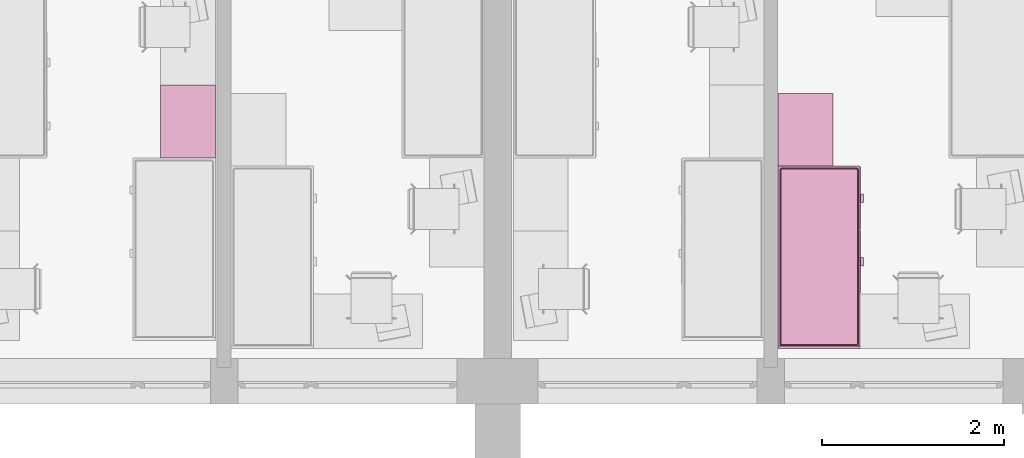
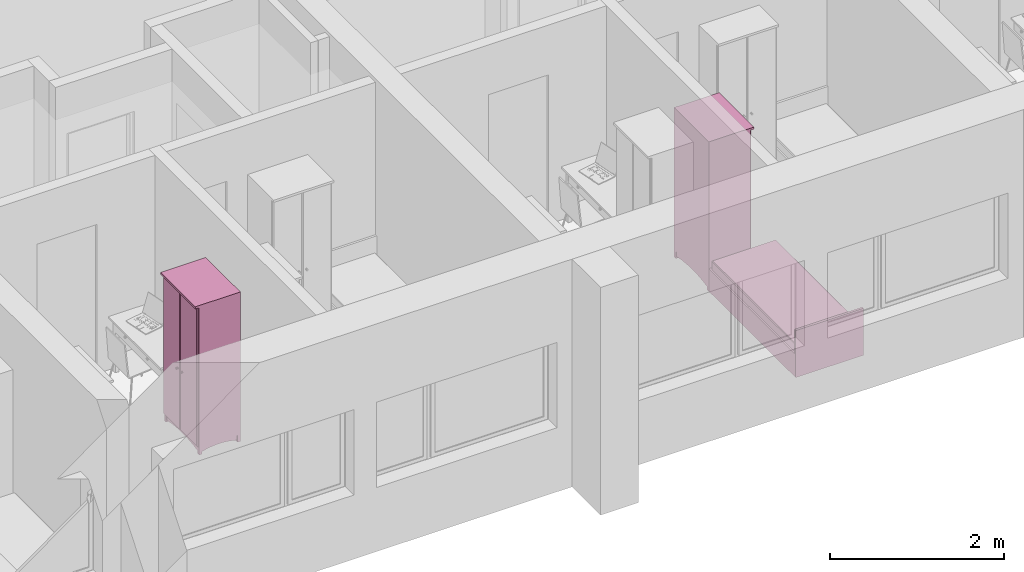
# One storey, part 62 of 165: 3 furnishings.
"""IFC2X3 building model written with IfcOpenShell, lengths in millimetres."""

from ifc_helpers import new_model, entity, si_unit, converted_unit, money_unit, direction, frame, origin_with_axes, place, context, subcontext, project, spatial, faceted_brep, source, transform, mapped, material, material_list, type_object, element, save


model = new_model("IFC2X3")

# Units and contexts
model_context = context("Model", 3, precision=1e-05, world=origin_with_axes(), true_north=direction((0.0, 1.0)))
body_context = subcontext(model_context, "Body", "Model", "MODEL_VIEW")
ifc_project = project(units=[si_unit("LENGTHUNIT", "METRE", prefix="MILLI"), si_unit("AREAUNIT", "SQUARE_METRE"), si_unit("VOLUMEUNIT", "CUBIC_METRE"), converted_unit("PLANEANGLEUNIT", "DEGREE", entity("IfcPlaneAngleMeasure", 0.0174532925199), si_unit("PLANEANGLEUNIT", "RADIAN"), dimensions=[0, 0, 0, 0, 0, 0, 0]), si_unit("SOLIDANGLEUNIT", "STERADIAN"), money_unit("USD"), converted_unit("TIMEUNIT", "Year", entity("IfcTimeMeasure", 31556926.0), si_unit("TIMEUNIT", "SECOND"), dimensions=[0, 0, 0, 0, 0, 0, 0]), si_unit("MASSUNIT", "GRAM"), si_unit("THERMODYNAMICTEMPERATUREUNIT", "DEGREE_CELSIUS"), si_unit("LUMINOUSINTENSITYUNIT", "LUMEN")], contexts=[model_context])

# Site, building, storey
site_placement = place(None, origin_with_axes())
site = spatial("IfcSite", under=ifc_project, at=site_placement, Name="Site", CompositionType="ELEMENT")
building_placement = place(site_placement, origin_with_axes())
building = spatial("IfcBuilding", under=site, at=building_placement, Name="Building", CompositionType="ELEMENT")
storey_placement = place(building_placement, frame((0.0, 0.0, 6300.0), z_axis=(0.0, 0.0, 1.0), x_axis=(1.0, 0.0, 0.0)))
storey = spatial("IfcBuildingStorey", under=building, at=storey_placement, Name="4KORRUS", CompositionType="ELEMENT", Elevation=6300.0)

# Furnishings
ifc_material = material(Name="Background")
ifc_material_list = material_list([ifc_material])
furnishing_element_type_1 = type_object("IfcFurnishingElementType", Name="Cupboard 19")
shared_shape_1 = source(origin_with_axes(), body_context, "Body", "Brep", [
    faceted_brep([(780.0, 600.0, 120.0), (780.0, 600.0, 2050.0), (780.0, 580.0, 2050.0), (780.0, 580.0, 120.0), (20.0, 600.0, 120.0), (20.0, 600.0, 2050.0), (20.0, 580.0, 2050.0), (20.0, 580.0, 120.0)], [[[0, 1, 2, 3]], [[4, 5, 1, 0]], [[1, 5, 6, 2]], [[3, 2, 6, 7]], [[0, 3, 7, 4]], [[7, 6, 5, 4]]]),
    faceted_brep([(0.0, 50.0, 100.0), (0.0, 600.0, 100.0), (20.0, 600.0, 100.0), (20.0, 50.0, 100.0), (0.0, 50.0, 2070.0), (0.0, 600.0, 2070.0), (20.0, 600.0, 2070.0), (20.0, 50.0, 2070.0)], [[[0, 1, 2, 3]], [[0, 4, 5, 1]], [[1, 5, 6, 2]], [[2, 6, 7, 3]], [[3, 7, 4, 0]], [[7, 6, 5, 4]]]),
    faceted_brep([(780.0, 50.0, 100.0), (780.0, 600.0, 100.0), (800.0, 600.0, 100.0), (800.0, 50.0, 100.0), (780.0, 50.0, 2070.0), (780.0, 600.0, 2070.0), (800.0, 600.0, 2070.0), (800.0, 50.0, 2070.0)], [[[0, 1, 2, 3]], [[0, 4, 5, 1]], [[1, 5, 6, 2]], [[2, 6, 7, 3]], [[3, 7, 4, 0]], [[7, 6, 5, 4]]]),
    faceted_brep([(20.0, 50.0, 100.0), (20.0, 600.0, 100.0), (780.0, 600.0, 100.0), (780.0, 50.0, 100.0), (20.0, 50.0, 120.0), (20.0, 600.0, 120.0), (780.0, 600.0, 120.0), (780.0, 50.0, 120.0)], [[[0, 1, 2, 3]], [[0, 4, 5, 1]], [[1, 5, 6, 2]], [[2, 6, 7, 3]], [[3, 7, 4, 0]], [[7, 6, 5, 4]]]),
    faceted_brep([(20.0, 50.0, 2050.0), (20.0, 600.0, 2050.0), (780.0, 600.0, 2050.0), (780.0, 50.0, 2050.0), (20.0, 50.0, 2070.0), (20.0, 600.0, 2070.0), (780.0, 600.0, 2070.0), (780.0, 50.0, 2070.0)], [[[0, 1, 2, 3]], [[0, 4, 5, 1]], [[1, 5, 6, 2]], [[2, 6, 7, 3]], [[3, 7, 4, 0]], [[7, 6, 5, 4]]]),
    faceted_brep([(0.0, 600.0, 2070.0), (0.0, 0.0, 2070.0), (0.0, 0.0, 2100.0), (0.0, 600.0, 2100.0), (800.0, 600.0, 2070.0), (800.0, 0.0, 2070.0), (800.0, 0.0, 2100.0), (800.0, 600.0, 2100.0)], [[[0, 1, 2, 3]], [[0, 4, 5, 1]], [[1, 5, 6, 2]], [[3, 2, 6, 7]], [[4, 0, 3, 7]], [[5, 4, 7, 6]]]),
    faceted_brep([(760.0, 590.0, 25.0), (760.0, 570.0, 25.0), (640.962, 570.0, 45.8), (640.962, 590.0, 45.8), (760.0, 590.0, 100.0), (760.0, 570.0, 100.0), (40.0, 570.0, 100.0), (40.0, 570.0, 25.0), (159.038, 570.0, 45.8), (279.23, 570.0, 58.32), (400.0, 570.0, 62.5), (520.77, 570.0, 58.32), (520.77, 590.0, 58.32), (400.0, 590.0, 62.5), (279.23, 590.0, 58.32), (159.038, 590.0, 45.8), (40.0, 590.0, 25.0), (40.0, 590.0, 100.0)], [[[0, 1, 2, 3]], [[4, 5, 1, 0]], [[1, 5, 6, 7, 8, 9, 10, 11, 2]], [[3, 2, 11, 12]], [[0, 3, 12, 13, 14, 15, 16, 17, 4]], [[17, 6, 5, 4]], [[16, 7, 6, 17]], [[15, 8, 7, 16]], [[14, 9, 8, 15]], [[13, 10, 9, 14]], [[12, 11, 10, 13]]]),
    faceted_brep([(760.0, 80.0, 25.0), (760.0, 60.0, 25.0), (640.962, 60.0, 45.8), (640.962, 80.0, 45.8), (760.0, 80.0, 100.0), (760.0, 60.0, 100.0), (40.0, 60.0, 100.0), (40.0, 60.0, 25.0), (159.038, 60.0, 45.8), (279.23, 60.0, 58.32), (400.0, 60.0, 62.5), (520.77, 60.0, 58.32), (520.77, 80.0, 58.32), (400.0, 80.0, 62.5), (279.23, 80.0, 58.32), (159.038, 80.0, 45.8), (40.0, 80.0, 25.0), (40.0, 80.0, 100.0)], [[[0, 1, 2, 3]], [[4, 5, 1, 0]], [[1, 5, 6, 7, 8, 9, 10, 11, 2]], [[3, 2, 11, 12]], [[0, 3, 12, 13, 14, 15, 16, 17, 4]], [[17, 6, 5, 4]], [[16, 7, 6, 17]], [[15, 8, 7, 16]], [[14, 9, 8, 15]], [[13, 10, 9, 14]], [[12, 11, 10, 13]]]),
    faceted_brep([(790.0, 90.0, 25.0), (770.0, 90.0, 25.0), (770.0, 141.266, 38.072), (790.0, 141.266, 38.072), (790.0, 90.0, 100.0), (770.0, 90.0, 100.0), (770.0, 560.0, 100.0), (770.0, 560.0, 25.0), (770.0, 508.734, 38.072), (770.0, 456.752, 47.92), (770.0, 404.257, 54.508), (770.0, 351.453, 57.808), (770.0, 298.547, 57.808), (770.0, 245.743, 54.508), (770.0, 193.248, 47.92), (790.0, 193.248, 47.92), (790.0, 245.743, 54.508), (790.0, 298.547, 57.808), (790.0, 351.453, 57.808), (790.0, 404.257, 54.508), (790.0, 456.752, 47.92), (790.0, 508.734, 38.072), (790.0, 560.0, 25.0), (790.0, 560.0, 100.0)], [[[0, 1, 2, 3]], [[4, 5, 1, 0]], [[1, 5, 6, 7, 8, 9, 10, 11, 12, 13, 14, 2]], [[3, 2, 14, 15]], [[0, 3, 15, 16, 17, 18, 19, 20, 21, 22, 23, 4]], [[23, 6, 5, 4]], [[22, 7, 6, 23]], [[21, 8, 7, 22]], [[20, 9, 8, 21]], [[19, 10, 9, 20]], [[18, 11, 10, 19]], [[17, 12, 11, 18]], [[16, 13, 12, 17]], [[15, 14, 13, 16]]]),
    faceted_brep([(30.0, 90.0, 25.0), (10.0, 90.0, 25.0), (10.0, 141.266, 38.072), (30.0, 141.266, 38.072), (30.0, 90.0, 100.0), (10.0, 90.0, 100.0), (10.0, 560.0, 100.0), (10.0, 560.0, 25.0), (10.0, 508.734, 38.072), (10.0, 456.752, 47.92), (10.0, 404.257, 54.508), (10.0, 351.453, 57.808), (10.0, 298.547, 57.808), (10.0, 245.743, 54.508), (10.0, 193.248, 47.92), (30.0, 193.248, 47.92), (30.0, 245.743, 54.508), (30.0, 298.547, 57.808), (30.0, 351.453, 57.808), (30.0, 404.257, 54.508), (30.0, 456.752, 47.92), (30.0, 508.734, 38.072), (30.0, 560.0, 25.0), (30.0, 560.0, 100.0)], [[[0, 1, 2, 3]], [[4, 5, 1, 0]], [[1, 5, 6, 7, 8, 9, 10, 11, 12, 13, 14, 2]], [[3, 2, 14, 15]], [[0, 3, 15, 16, 17, 18, 19, 20, 21, 22, 23, 4]], [[23, 6, 5, 4]], [[22, 7, 6, 23]], [[21, 8, 7, 22]], [[20, 9, 8, 21]], [[19, 10, 9, 20]], [[18, 11, 10, 19]], [[17, 12, 11, 18]], [[16, 13, 12, 17]], [[15, 14, 13, 16]]]),
    faceted_brep([(760.0, 560.0, 0.0), (760.0, 560.0, 100.0), (760.0, 600.0, 100.0), (760.0, 600.0, 0.0), (800.0, 560.0, 0.0), (800.0, 560.0, 100.0), (800.0, 600.0, 100.0), (800.0, 600.0, 0.0)], [[[0, 1, 2, 3]], [[4, 5, 1, 0]], [[1, 5, 6, 2]], [[3, 2, 6, 7]], [[0, 3, 7, 4]], [[7, 6, 5, 4]]]),
    faceted_brep([(0.0, 560.0, 0.0), (0.0, 560.0, 100.0), (0.0, 600.0, 100.0), (0.0, 600.0, 0.0), (40.0, 560.0, 0.0), (40.0, 560.0, 100.0), (40.0, 600.0, 100.0), (40.0, 600.0, 0.0)], [[[0, 1, 2, 3]], [[4, 5, 1, 0]], [[1, 5, 6, 2]], [[3, 2, 6, 7]], [[0, 3, 7, 4]], [[7, 6, 5, 4]]]),
    faceted_brep([(760.0, 50.0, 0.0), (760.0, 50.0, 100.0), (760.0, 90.0, 100.0), (760.0, 90.0, 0.0), (800.0, 50.0, 0.0), (800.0, 50.0, 100.0), (800.0, 90.0, 100.0), (800.0, 90.0, 0.0)], [[[0, 1, 2, 3]], [[4, 5, 1, 0]], [[1, 5, 6, 2]], [[3, 2, 6, 7]], [[0, 3, 7, 4]], [[7, 6, 5, 4]]]),
    faceted_brep([(0.0, 50.0, 0.0), (0.0, 50.0, 100.0), (0.0, 90.0, 100.0), (0.0, 90.0, 0.0), (40.0, 50.0, 0.0), (40.0, 50.0, 100.0), (40.0, 90.0, 100.0), (40.0, 90.0, 0.0)], [[[0, 1, 2, 3]], [[4, 5, 1, 0]], [[1, 5, 6, 2]], [[3, 2, 6, 7]], [[0, 3, 7, 4]], [[7, 6, 5, 4]]]),
    faceted_brep([(780.0, 580.0, 587.5), (780.0, 580.0, 607.5), (780.0, 50.0, 607.5), (780.0, 50.0, 587.5), (20.0, 580.0, 587.5), (20.0, 580.0, 607.5), (20.0, 50.0, 607.5), (20.0, 50.0, 587.5)], [[[0, 1, 2, 3]], [[4, 5, 1, 0]], [[1, 5, 6, 2]], [[3, 2, 6, 7]], [[0, 3, 7, 4]], [[7, 6, 5, 4]]]),
    faceted_brep([(780.0, 580.0, 1075.0), (780.0, 580.0, 1095.0), (780.0, 50.0, 1095.0), (780.0, 50.0, 1075.0), (20.0, 580.0, 1075.0), (20.0, 580.0, 1095.0), (20.0, 50.0, 1095.0), (20.0, 50.0, 1075.0)], [[[0, 1, 2, 3]], [[4, 5, 1, 0]], [[1, 5, 6, 2]], [[3, 2, 6, 7]], [[0, 3, 7, 4]], [[7, 6, 5, 4]]]),
    faceted_brep([(780.0, 580.0, 1562.5), (780.0, 580.0, 1582.5), (780.0, 50.0, 1582.5), (780.0, 50.0, 1562.5), (20.0, 580.0, 1562.5), (20.0, 580.0, 1582.5), (20.0, 50.0, 1582.5), (20.0, 50.0, 1562.5)], [[[0, 1, 2, 3]], [[4, 5, 1, 0]], [[1, 5, 6, 2]], [[3, 2, 6, 7]], [[0, 3, 7, 4]], [[7, 6, 5, 4]]]),
    faceted_brep([(789.5, 50.0, 110.5), (400.5, 50.0, 110.5), (400.5, 50.0, 2059.5), (789.5, 50.0, 2059.5), (789.5, 40.0, 110.5), (400.5, 40.0, 110.5), (400.5, 40.0, 2059.5), (789.5, 40.0, 2059.5), (779.5, 30.0, 120.5), (410.5, 30.0, 120.5), (410.5, 30.0, 2049.5), (779.5, 30.0, 2049.5)], [[[0, 1, 2, 3]], [[0, 4, 5, 1]], [[1, 5, 6, 2]], [[2, 6, 7, 3]], [[3, 7, 4, 0]], [[4, 8, 9, 5]], [[5, 9, 10, 6]], [[6, 10, 11, 7]], [[7, 11, 8, 4]], [[10, 9, 8, 11]]]),
    faceted_brep([(399.5, 50.0, 110.5), (10.5, 50.0, 110.5), (10.5, 50.0, 2059.5), (399.5, 50.0, 2059.5), (399.5, 40.0, 110.5), (10.5, 40.0, 110.5), (10.5, 40.0, 2059.5), (399.5, 40.0, 2059.5), (389.5, 30.0, 120.5), (20.5, 30.0, 120.5), (20.5, 30.0, 2049.5), (389.5, 30.0, 2049.5)], [[[0, 1, 2, 3]], [[0, 4, 5, 1]], [[1, 5, 6, 2]], [[2, 6, 7, 3]], [[3, 7, 4, 0]], [[4, 8, 9, 5]], [[5, 9, 10, 6]], [[6, 10, 11, 7]], [[7, 11, 8, 4]], [[10, 9, 8, 11]]]),
    faceted_brep([(339.608, 30.0, 954.0), (338.0, 30.0, 960.0), (339.608, 30.0, 966.0), (344.0, 30.0, 970.392), (350.0, 30.0, 972.0), (356.0, 30.0, 970.392), (360.392, 30.0, 966.0), (362.0, 30.0, 960.0), (360.392, 30.0, 954.0), (356.0, 30.0, 949.608), (350.0, 30.0, 948.0), (344.0, 30.0, 949.608), (339.608, 5.0, 954.0), (338.0, 5.0, 960.0), (339.608, 5.0, 966.0), (344.0, 5.0, 970.392), (350.0, 5.0, 972.0), (356.0, 5.0, 970.392), (360.392, 5.0, 966.0), (362.0, 5.0, 960.0), (360.392, 5.0, 954.0), (356.0, 5.0, 949.608), (350.0, 5.0, 948.0), (344.0, 5.0, 949.608)], [[[0, 1, 2, 3, 4, 5, 6, 7, 8, 9, 10, 11]], [[0, 12, 13, 1]], [[1, 13, 14, 2]], [[2, 14, 15, 3]], [[3, 15, 16, 4]], [[4, 16, 17, 5]], [[5, 17, 18, 6]], [[6, 18, 19, 7]], [[7, 19, 20, 8]], [[8, 20, 21, 9]], [[9, 21, 22, 10]], [[10, 22, 23, 11]], [[11, 23, 12, 0]], [[12, 23, 22, 21, 20, 19, 18, 17, 16, 15, 14, 13]]]),
    faceted_brep([(460.392, 30.0, 954.0), (456.0, 30.0, 949.608), (450.0, 30.0, 948.0), (444.0, 30.0, 949.608), (439.608, 30.0, 954.0), (438.0, 30.0, 960.0), (439.608, 30.0, 966.0), (444.0, 30.0, 970.392), (450.0, 30.0, 972.0), (456.0, 30.0, 970.392), (460.392, 30.0, 966.0), (462.0, 30.0, 960.0), (460.392, 5.0, 954.0), (456.0, 5.0, 949.608), (450.0, 5.0, 948.0), (444.0, 5.0, 949.608), (439.608, 5.0, 954.0), (438.0, 5.0, 960.0), (439.608, 5.0, 966.0), (444.0, 5.0, 970.392), (450.0, 5.0, 972.0), (456.0, 5.0, 970.392), (460.392, 5.0, 966.0), (462.0, 5.0, 960.0)], [[[0, 1, 2, 3, 4, 5, 6, 7, 8, 9, 10, 11]], [[1, 0, 12, 13]], [[2, 1, 13, 14]], [[3, 2, 14, 15]], [[4, 3, 15, 16]], [[5, 4, 16, 17]], [[6, 5, 17, 18]], [[7, 6, 18, 19]], [[8, 7, 19, 20]], [[9, 8, 20, 21]], [[10, 9, 21, 22]], [[11, 10, 22, 23]], [[0, 11, 23, 12]], [[12, 23, 22, 21, 20, 19, 18, 17, 16, 15, 14, 13]]]),
])
for number, where, z_axis, x_axis, name in (
    (1, (-38465.2967033, -17529.2398994, 0.0), (0.0, 0.0, 1.0), (0.0, 1.0, 0.0), "FU - 014"),
    (2, (-45840.2967033, -16639.2398994, 0.0), (0.0, 0.0, 1.0), (0.0, -1.0, 0.0), "FU - 014"),
):
    element("IfcFurnishingElement", number, at=place(storey_placement, frame(where, z_axis=z_axis, x_axis=x_axis)), inside=storey, type_object=furnishing_element_type_1, material=ifc_material_list, Name=name, context=body_context, shape_type="MappedRepresentation", body=[
        mapped(shared_shape_1, transform((0.0, 0.0, 0.0))),
    ])
furnishing_element_type_2 = type_object("IfcFurnishingElementType", Name="Bed 19")
shared_shape_2 = source(origin_with_axes(), body_context, "Body", "Brep", [
    faceted_brep([(-900.0, 1970.0, 0.0), (-900.0, 2000.0, 0.0), (0.0, 2000.0, 0.0), (0.0, 1970.0, 0.0), (-900.0, 1970.0, 660.0), (-900.0, 2000.0, 660.0), (0.0, 2000.0, 660.0), (0.0, 1970.0, 660.0)], [[[0, 1, 2, 3]], [[0, 4, 5, 1]], [[1, 5, 6, 2]], [[2, 6, 7, 3]], [[3, 7, 4, 0]], [[7, 6, 5, 4]]]),
    faceted_brep([(-900.0, 0.0, 0.0), (-900.0, 1970.0, 0.0), (0.0, 1970.0, 0.0), (0.0, 0.0, 0.0), (-900.0, 0.0, 320.0), (-900.0, 1970.0, 320.0), (0.0, 1970.0, 320.0), (0.0, 0.0, 320.0)], [[[0, 1, 2, 3]], [[0, 4, 5, 1]], [[1, 5, 6, 2]], [[2, 6, 7, 3]], [[3, 7, 4, 0]], [[7, 6, 5, 4]]]),
    faceted_brep([(-905.0, 10.0, 30.0), (-905.0, 695.0, 30.0), (-900.0, 695.0, 30.0), (-900.0, 10.0, 30.0), (-905.0, 10.0, 290.0), (-905.0, 695.0, 290.0), (-900.0, 695.0, 290.0), (-900.0, 10.0, 290.0)], [[[0, 1, 2, 3]], [[0, 4, 5, 1]], [[1, 5, 6, 2]], [[2, 6, 7, 3]], [[3, 7, 4, 0]], [[7, 6, 5, 4]]]),
    faceted_brep([(-935.0, 307.5, 150.0), (-935.0, 397.5, 150.0), (-905.0, 397.5, 150.0), (-905.0, 307.5, 150.0), (-935.0, 307.5, 170.0), (-935.0, 397.5, 170.0), (-905.0, 397.5, 170.0), (-905.0, 307.5, 170.0)], [[[0, 1, 2, 3]], [[0, 4, 5, 1]], [[1, 5, 6, 2]], [[2, 6, 7, 3]], [[3, 7, 4, 0]], [[7, 6, 5, 4]]]),
    faceted_brep([(-905.0, 705.0, 30.0), (-905.0, 1390.0, 30.0), (-900.0, 1390.0, 30.0), (-900.0, 705.0, 30.0), (-905.0, 705.0, 290.0), (-905.0, 1390.0, 290.0), (-900.0, 1390.0, 290.0), (-900.0, 705.0, 290.0)], [[[0, 1, 2, 3]], [[0, 4, 5, 1]], [[1, 5, 6, 2]], [[2, 6, 7, 3]], [[3, 7, 4, 0]], [[7, 6, 5, 4]]]),
    faceted_brep([(-935.0, 1002.5, 150.0), (-935.0, 1092.5, 150.0), (-905.0, 1092.5, 150.0), (-905.0, 1002.5, 150.0), (-935.0, 1002.5, 170.0), (-935.0, 1092.5, 170.0), (-905.0, 1092.5, 170.0), (-905.0, 1002.5, 170.0)], [[[0, 1, 2, 3]], [[0, 4, 5, 1]], [[1, 5, 6, 2]], [[2, 6, 7, 3]], [[3, 7, 4, 0]], [[7, 6, 5, 4]]]),
    faceted_brep([(-20.0, 40.0, 350.0), (-21.522, 32.346, 350.0), (-25.858, 25.858, 350.0), (-32.346, 21.522, 350.0), (-40.0, 20.0, 350.0), (-860.0, 20.0, 350.0), (-867.654, 21.522, 350.0), (-874.142, 25.858, 350.0), (-878.478, 32.346, 350.0), (-880.0, 40.0, 350.0), (-880.0, 1950.0, 350.0), (-878.478, 1957.654, 350.0), (-874.142, 1964.142, 350.0), (-867.654, 1968.478, 350.0), (-860.0, 1970.0, 350.0), (-40.0, 1970.0, 350.0), (-32.346, 1968.478, 350.0), (-25.858, 1964.142, 350.0), (-21.522, 1957.654, 350.0), (-20.0, 1950.0, 350.0), (-20.0, 40.0, 420.0), (-21.522, 32.346, 420.0), (-25.858, 25.858, 420.0), (-32.346, 21.522, 420.0), (-40.0, 20.0, 420.0), (-860.0, 20.0, 420.0), (-867.654, 21.522, 420.0), (-874.142, 25.858, 420.0), (-878.478, 32.346, 420.0), (-880.0, 40.0, 420.0), (-880.0, 1950.0, 420.0), (-878.478, 1957.654, 420.0), (-874.142, 1964.142, 420.0), (-867.654, 1968.478, 420.0), (-860.0, 1970.0, 420.0), (-40.0, 1970.0, 420.0), (-32.346, 1968.478, 420.0), (-25.858, 1964.142, 420.0), (-21.522, 1957.654, 420.0), (-20.0, 1950.0, 420.0), (-21.522, 40.15, 427.654), (-22.956, 32.94, 427.654), (-26.955, 26.955, 427.654), (-32.94, 22.956, 427.654), (-40.15, 21.522, 427.654), (-859.85, 21.522, 427.654), (-867.06, 22.956, 427.654), (-873.045, 26.955, 427.654), (-877.044, 32.94, 427.654), (-878.478, 40.15, 427.654), (-878.478, 1949.85, 427.654), (-877.044, 1957.06, 427.654), (-873.045, 1963.045, 427.654), (-867.06, 1967.044, 427.654), (-859.85, 1968.478, 427.654), (-40.15, 1968.478, 427.654), (-32.94, 1967.044, 427.654), (-26.955, 1963.045, 427.654), (-22.956, 1957.06, 427.654), (-21.522, 1949.85, 427.654), (-32.346, 41.216, 438.478), (-33.152, 37.164, 438.478), (-34.759, 34.759, 438.478), (-37.164, 33.152, 438.478), (-41.216, 32.346, 438.478), (-858.784, 32.346, 438.478), (-862.836, 33.152, 438.478), (-865.241, 34.759, 438.478), (-866.848, 37.164, 438.478), (-867.654, 41.216, 438.478), (-867.654, 1948.784, 438.478), (-866.848, 1952.836, 438.478), (-865.241, 1955.241, 438.478), (-862.836, 1956.848, 438.478), (-858.784, 1957.654, 438.478), (-41.216, 1957.654, 438.478), (-37.164, 1956.848, 438.478), (-34.759, 1955.241, 438.478), (-33.152, 1952.836, 438.478), (-32.346, 1948.784, 438.478), (-40.0, 41.97, 440.0), (-40.327, 40.327, 440.0), (-40.0, 40.0, 439.924), (-41.97, 40.0, 440.0), (-858.03, 40.0, 440.0), (-859.673, 40.327, 440.0), (-860.0, 40.0, 439.924), (-860.0, 41.97, 440.0), (-860.0, 1948.03, 440.0), (-859.673, 1949.673, 440.0), (-860.0, 1950.0, 439.924), (-858.03, 1950.0, 440.0), (-41.97, 1950.0, 440.0), (-40.327, 1949.673, 440.0), (-40.0, 1950.0, 439.924), (-40.0, 1948.03, 440.0)], [[[0, 1, 2, 3, 4, 5, 6, 7, 8, 9, 10, 11, 12, 13, 14, 15, 16, 17, 18, 19]], [[0, 20, 21, 1]], [[1, 21, 22, 2]], [[2, 22, 23, 3]], [[3, 23, 24, 4]], [[4, 24, 25, 5]], [[5, 25, 26, 6]], [[6, 26, 27, 7]], [[7, 27, 28, 8]], [[8, 28, 29, 9]], [[9, 29, 30, 10]], [[10, 30, 31, 11]], [[11, 31, 32, 12]], [[12, 32, 33, 13]], [[13, 33, 34, 14]], [[14, 34, 35, 15]], [[15, 35, 36, 16]], [[16, 36, 37, 17]], [[17, 37, 38, 18]], [[18, 38, 39, 19]], [[19, 39, 20, 0]], [[20, 40, 41, 21]], [[21, 41, 42, 22]], [[22, 42, 43, 23]], [[23, 43, 44, 24]], [[24, 44, 45, 25]], [[25, 45, 46, 26]], [[26, 46, 47, 27]], [[27, 47, 48, 28]], [[28, 48, 49, 29]], [[29, 49, 50, 30]], [[30, 50, 51, 31]], [[31, 51, 52, 32]], [[32, 52, 53, 33]], [[33, 53, 54, 34]], [[34, 54, 55, 35]], [[35, 55, 56, 36]], [[36, 56, 57, 37]], [[37, 57, 58, 38]], [[38, 58, 59, 39]], [[39, 59, 40, 20]], [[40, 60, 61, 41]], [[41, 61, 62, 42]], [[42, 62, 63, 43]], [[43, 63, 64, 44]], [[44, 64, 65, 45]], [[45, 65, 66, 46]], [[46, 66, 67, 47]], [[47, 67, 68, 48]], [[48, 68, 69, 49]], [[49, 69, 70, 50]], [[50, 70, 71, 51]], [[51, 71, 72, 52]], [[52, 72, 73, 53]], [[53, 73, 74, 54]], [[54, 74, 75, 55]], [[55, 75, 76, 56]], [[56, 76, 77, 57]], [[57, 77, 78, 58]], [[58, 78, 79, 59]], [[59, 79, 60, 40]], [[60, 80, 81, 82, 61]], [[61, 82, 62]], [[62, 82, 63]], [[63, 82, 81, 83, 64]], [[64, 83, 84, 65]], [[65, 84, 85, 86, 66]], [[66, 86, 67]], [[67, 86, 68]], [[68, 86, 85, 87, 69]], [[69, 87, 88, 70]], [[70, 88, 89, 90, 71]], [[71, 90, 72]], [[72, 90, 73]], [[73, 90, 89, 91, 74]], [[74, 91, 92, 75]], [[75, 92, 93, 94, 76]], [[76, 94, 77]], [[77, 94, 78]], [[78, 94, 93, 95, 79]], [[79, 95, 80, 60]], [[95, 93, 92, 91, 89, 88, 87, 85, 84, 83, 81, 80]]]),
    faceted_brep([(-20.0, 40.0, 350.0), (-20.0, 1950.0, 350.0), (-21.522, 1957.654, 350.0), (-25.858, 1964.142, 350.0), (-32.346, 1968.478, 350.0), (-40.0, 1970.0, 350.0), (-860.0, 1970.0, 350.0), (-867.654, 1968.478, 350.0), (-874.142, 1964.142, 350.0), (-878.478, 1957.654, 350.0), (-880.0, 1950.0, 350.0), (-880.0, 40.0, 350.0), (-878.478, 32.346, 350.0), (-874.142, 25.858, 350.0), (-867.654, 21.522, 350.0), (-860.0, 20.0, 350.0), (-40.0, 20.0, 350.0), (-32.346, 21.522, 350.0), (-25.858, 25.858, 350.0), (-21.522, 32.346, 350.0), (-20.0, 40.0, 320.0), (-20.0, 1950.0, 320.0), (-21.522, 1957.654, 320.0), (-25.858, 1964.142, 320.0), (-32.346, 1968.478, 320.0), (-40.0, 1970.0, 320.0), (-860.0, 1970.0, 320.0), (-867.654, 1968.478, 320.0), (-874.142, 1964.142, 320.0), (-878.478, 1957.654, 320.0), (-880.0, 1950.0, 320.0), (-880.0, 40.0, 320.0), (-878.478, 32.346, 320.0), (-874.142, 25.858, 320.0), (-867.654, 21.522, 320.0), (-860.0, 20.0, 320.0), (-40.0, 20.0, 320.0), (-32.346, 21.522, 320.0), (-25.858, 25.858, 320.0), (-21.522, 32.346, 320.0)], [[[0, 1, 2, 3, 4, 5, 6, 7, 8, 9, 10, 11, 12, 13, 14, 15, 16, 17, 18, 19]], [[1, 0, 20, 21]], [[2, 1, 21, 22]], [[3, 2, 22, 23]], [[4, 3, 23, 24]], [[5, 4, 24, 25]], [[6, 5, 25, 26]], [[7, 6, 26, 27]], [[8, 7, 27, 28]], [[9, 8, 28, 29]], [[10, 9, 29, 30]], [[11, 10, 30, 31]], [[12, 11, 31, 32]], [[13, 12, 32, 33]], [[14, 13, 33, 34]], [[15, 14, 34, 35]], [[16, 15, 35, 36]], [[17, 16, 36, 37]], [[18, 17, 37, 38]], [[19, 18, 38, 39]], [[0, 19, 39, 20]], [[20, 39, 38, 37, 36, 35, 34, 33, 32, 31, 30, 29, 28, 27, 26, 25, 24, 23, 22, 21]]]),
])
furnishing_placement = place(storey_placement, frame((-39065.2967033, -17529.2398994, 0.0), z_axis=(0.0, 0.0, 1.0), x_axis=(-1.0, 0.0, 0.0)))
element("IfcFurnishingElement", 3, at=furnishing_placement, inside=storey, type_object=furnishing_element_type_2, material=ifc_material_list, Name="FU - 013", context=body_context, shape_type="MappedRepresentation", body=[
    mapped(shared_shape_2, transform((0.0, 0.0, 0.0))),
])

save(model, "model.ifc")
